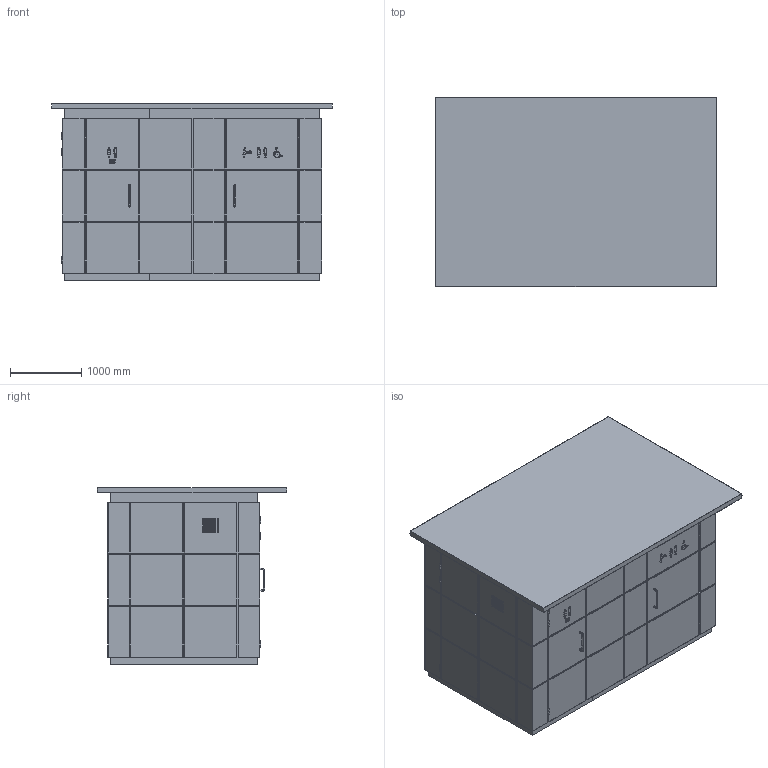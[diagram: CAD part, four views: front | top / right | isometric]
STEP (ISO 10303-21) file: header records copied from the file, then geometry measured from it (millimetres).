
FILE_DESCRIPTION(/* description */ (''),/* implementation_level */ '2;1');
FILE_NAME(/* name */ 'J2_HKR~1',/* time_stamp */ '2016-12-08T10:10:04+02:00',/* author */ (''),/* organization */ (''),/* preprocessor_version */ 'ST-DEVELOPER v15',/* originating_system */ '',/* authorisation */ '');
FILE_SCHEMA (('AUTOMOTIVE_DESIGN'));
Length unit declared in the file: millimetre
Products named in the file (1): Document
Bounding box: 3938 x 2655 x 2483.5 mm (x, y, z)
Volume: 3337427234.7 mm3; surface area: 142220826.2 mm2
Topology: 71 solids, 118 shells, 2217 faces, 5333 edges, 3341 vertices
Faces by surface type: bspline 1508, plane 709
Entity records: 65391 total; most frequent: CARTESIAN_POINT 33176, ORIENTED_EDGE 9901, EDGE_CURVE 5333, VERTEX_POINT 3341, B_SPLINE_CURVE_WITH_KNOTS 3278, EDGE_LOOP 2306, ADVANCED_FACE 2217, FACE_OUTER_BOUND 2217
